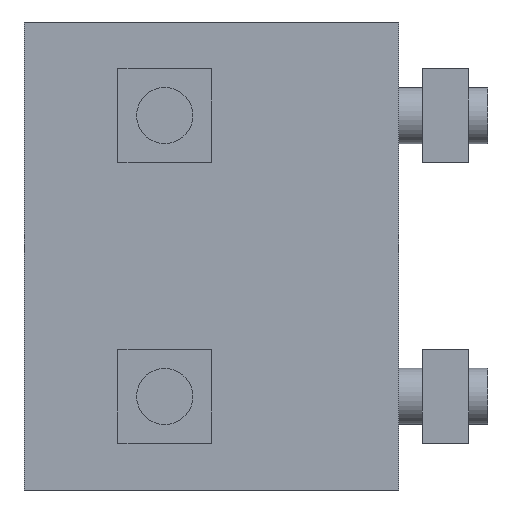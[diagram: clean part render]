
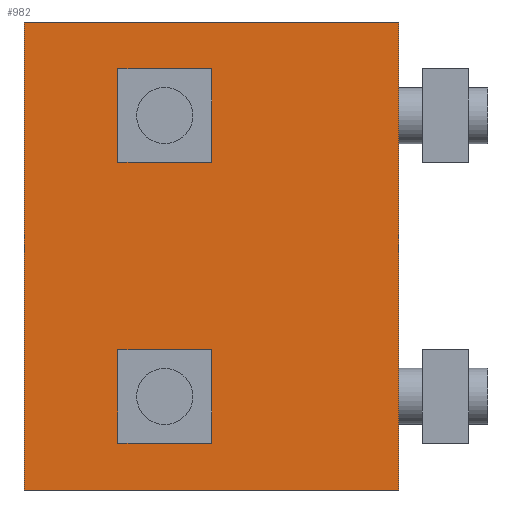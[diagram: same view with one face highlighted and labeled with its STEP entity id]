
A CAD part, left-side view. The second image highlights one B-rep face of the part: STEP entity #982.
In plain terms, the highlighted planar face has unit normal (-1, 0, 0).
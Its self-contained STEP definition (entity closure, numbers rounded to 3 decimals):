
#361=CARTESIAN_POINT('',(0.,21.5,-15.));
#362=VERTEX_POINT('',#361);
#363=CARTESIAN_POINT('',(0.,25.,-15.));
#364=DIRECTION('',(1.0,0.0,0.0));
#365=DIRECTION('',(0.0,-1.0,0.0));
#366=AXIS2_PLACEMENT_3D('',#363,#364,#365);
#367=CIRCLE('',#366,3.5);
#368=EDGE_CURVE('',#362,#362,#367,.T.);
#451=CARTESIAN_POINT('',(0.,21.5,15.));
#452=VERTEX_POINT('',#451);
#453=CARTESIAN_POINT('',(0.,25.,15.));
#454=DIRECTION('',(1.0,0.0,0.0));
#455=DIRECTION('',(0.0,-1.0,0.0));
#456=AXIS2_PLACEMENT_3D('',#453,#454,#455);
#457=CIRCLE('',#456,3.5);
#458=EDGE_CURVE('',#452,#452,#457,.T.);
#916=CARTESIAN_POINT('',(0.0,0.0,-25.));
#917=VERTEX_POINT('',#916);
#924=CARTESIAN_POINT('',(0.,40.,-25.));
#925=VERTEX_POINT('',#924);
#926=CARTESIAN_POINT('',(0.,40.,-25.));
#927=DIRECTION('',(0.0,-1.0,0.0));
#928=VECTOR('',#927,40.);
#929=LINE('',#926,#928);
#930=EDGE_CURVE('',#925,#917,#929,.T.);
#946=CARTESIAN_POINT('',(0.0,0.0,0.0));
#947=DIRECTION('',(-1.0,0.0,0.0));
#948=DIRECTION('',(0.0,0.0,1.0));
#949=AXIS2_PLACEMENT_3D('',#946,#947,#948);
#950=PLANE('',#949);
#951=CARTESIAN_POINT('',(0.0,0.0,25.));
#952=VERTEX_POINT('',#951);
#953=CARTESIAN_POINT('',(0.,40.,25.));
#954=VERTEX_POINT('',#953);
#955=CARTESIAN_POINT('',(0.0,0.0,25.));
#956=DIRECTION('',(0.0,1.0,0.0));
#957=VECTOR('',#956,40.);
#958=LINE('',#955,#957);
#959=EDGE_CURVE('',#952,#954,#958,.T.);
#960=ORIENTED_EDGE('',*,*,#959,.T.);
#961=CARTESIAN_POINT('',(0.,40.,-25.));
#962=DIRECTION('',(0.0,0.0,1.0));
#963=VECTOR('',#962,50.);
#964=LINE('',#961,#963);
#965=EDGE_CURVE('',#925,#954,#964,.T.);
#966=ORIENTED_EDGE('',*,*,#965,.F.);
#967=ORIENTED_EDGE('',*,*,#930,.T.);
#968=CARTESIAN_POINT('',(0.0,0.0,25.));
#969=DIRECTION('',(0.0,0.0,-1.0));
#970=VECTOR('',#969,50.);
#971=LINE('',#968,#970);
#972=EDGE_CURVE('',#952,#917,#971,.T.);
#973=ORIENTED_EDGE('',*,*,#972,.F.);
#974=EDGE_LOOP('',(#960,#966,#967,#973));
#975=FACE_OUTER_BOUND('',#974,.T.);
#976=ORIENTED_EDGE('',*,*,#368,.T.);
#977=EDGE_LOOP('',(#976));
#978=FACE_BOUND('',#977,.T.);
#979=ORIENTED_EDGE('',*,*,#458,.T.);
#980=EDGE_LOOP('',(#979));
#981=FACE_BOUND('',#980,.T.);
#982=ADVANCED_FACE('',(#975,#978,#981),#950,.T.);
